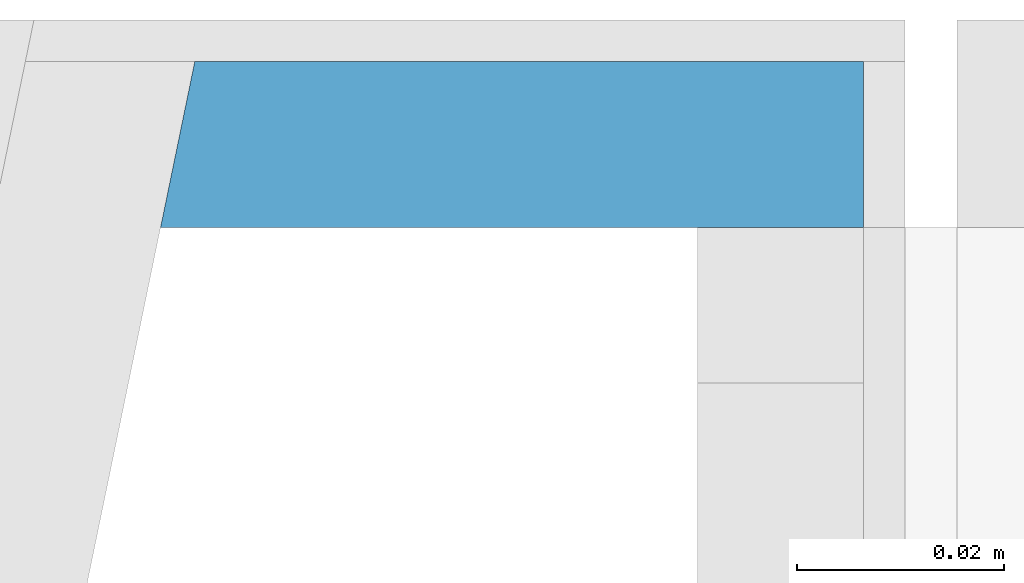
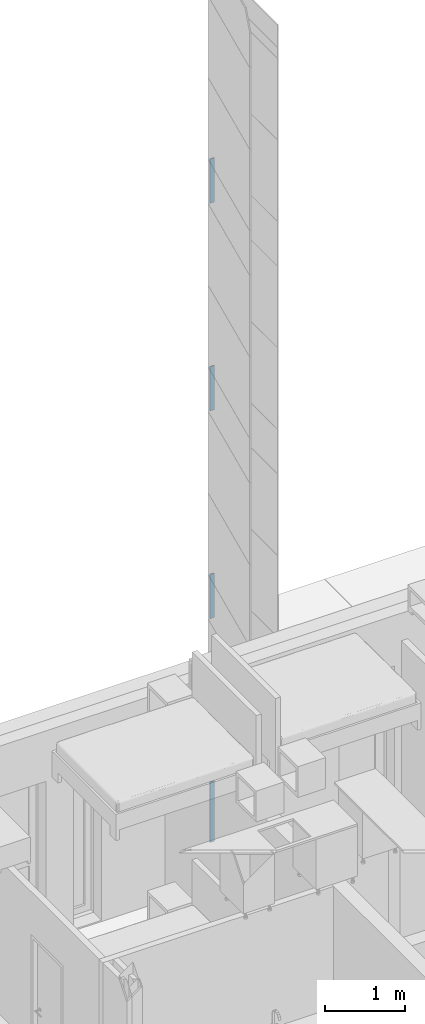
# One storey, part 34 of 125: 4 building element parts, 1 element without a shape of its own.
"""IFC2X3 building model written with IfcOpenShell, lengths in millimetres."""

from ifc_helpers import new_model, entity, si_unit, converted_unit, direction, frame, origin, place, context, subcontext, project, spatial, polyline, outline, extrude, material, type_object, element, aggregate, save


model = new_model("IFC2X3")

# Units and contexts
model_context = context("Model", 3, precision=0.01, world=origin(), true_north=direction((6.123233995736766e-17, 1.0)))
plan_context = context("Plan", 3, precision=0.01, world=origin(), true_north=direction((6.123233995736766e-17, 1.0)))
body_context = subcontext(model_context, "Body", "Model", "MODEL_VIEW")
ifc_project = project(units=[si_unit("LENGTHUNIT", "METRE", prefix="MILLI"), converted_unit("PLANEANGLEUNIT", "DEGREE", entity("IfcPlaneAngleMeasure", 0.017453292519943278), si_unit("PLANEANGLEUNIT", "RADIAN"), dimensions=[0, 0, 0, 0, 0, 0, 0]), si_unit("AREAUNIT", "SQUARE_METRE")], contexts=[model_context, plan_context])

# Site, building, storey
site_placement = place(None, origin())
site = spatial("IfcSite", under=ifc_project, at=site_placement, Name="Default", CompositionType="ELEMENT")
building_placement = place(site_placement, origin())
building = spatial("IfcBuilding", under=site, at=building_placement, CompositionType="ELEMENT")
storey_placement = place(building_placement, frame((0.0, 0.0, 3125.0)))
storey = spatial("IfcBuildingStorey", under=building, at=storey_placement, Name="2K", CompositionType="ELEMENT", Elevation=3125.0)

# Wall, building element parts
wall_type = type_object("IfcWallType", Name="Basic Wall:VS-komposiit", PredefinedType="STANDARD")
wall_placement = place(storey_placement, frame((4963.640832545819, 17442.0, -1010.0)))
wall = element("IfcWall", 1, at=wall_placement, inside=storey, type_object=wall_type, Name="Basic Wall:VS-komposiit", ObjectType="Basic Wall:VS-komposiit")
ifc_material = material(Name="_K. Õhk. Roov. Fassaadikatte alusroov. Horisontaalne. 25 mm")
building_element_part_1_placement = place(wall_placement, origin())
building_element_part_1 = element("IfcBuildingElementPart", 2, at=building_element_part_1_placement, material=ifc_material, Name="Part", context=body_context, shape_type="SweptSolid", body=[
    extrude(outline(polyline([(-34.7128112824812, -8.0), (33.06294461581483, -8.0), (33.06294461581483, 8.0), (-31.41307794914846, 8.0), (-34.7128112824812, -8.0)])), frame((34.7128112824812, -2.0, 0.0)), (0.0, 0.0, 1.0), 922.4999999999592),
])
building_element_part_2_placement = place(wall_placement, origin())
building_element_part_2 = element("IfcBuildingElementPart", 3, at=building_element_part_2_placement, material=ifc_material, Name="Part", context=body_context, shape_type="SweptSolid", body=[
    extrude(outline(polyline([(-34.7128112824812, -8.0), (33.06294461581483, -8.0), (33.06294461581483, 8.0), (-31.41307794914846, 8.0), (-34.7128112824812, -8.0)])), frame((34.7128112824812, -2.0, 3417.499999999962)), (0.0, 0.0, 1.0), 674.999999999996),
])
building_element_part_3_placement = place(wall_placement, origin())
building_element_part_3 = element("IfcBuildingElementPart", 4, at=building_element_part_3_placement, material=ifc_material, Name="Part", context=body_context, shape_type="SweptSolid", body=[
    extrude(outline(polyline([(-34.7128112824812, -8.0), (33.06294461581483, -8.0), (33.06294461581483, 8.0), (-31.41307794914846, 8.0), (-34.7128112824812, -8.0)])), frame((34.7128112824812, -2.0, 6587.499999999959)), (0.0, 0.0, 1.0), 674.999999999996),
])
building_element_part_4_placement = place(wall_placement, origin())
building_element_part_4 = element("IfcBuildingElementPart", 5, at=building_element_part_4_placement, material=ifc_material, Name="Part", context=body_context, shape_type="SweptSolid", body=[
    extrude(outline(polyline([(-34.7128112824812, -8.0), (33.06294461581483, -8.0), (33.06294461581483, 8.0), (-31.41307794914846, 8.0), (-34.7128112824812, -8.0)])), frame((34.7128112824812, -2.0, 9757.499999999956)), (0.0, 0.0, 1.0), 675.0000000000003),
])
aggregate(wall, [building_element_part_1, building_element_part_2, building_element_part_3, building_element_part_4])

save(model, "model.ifc")
